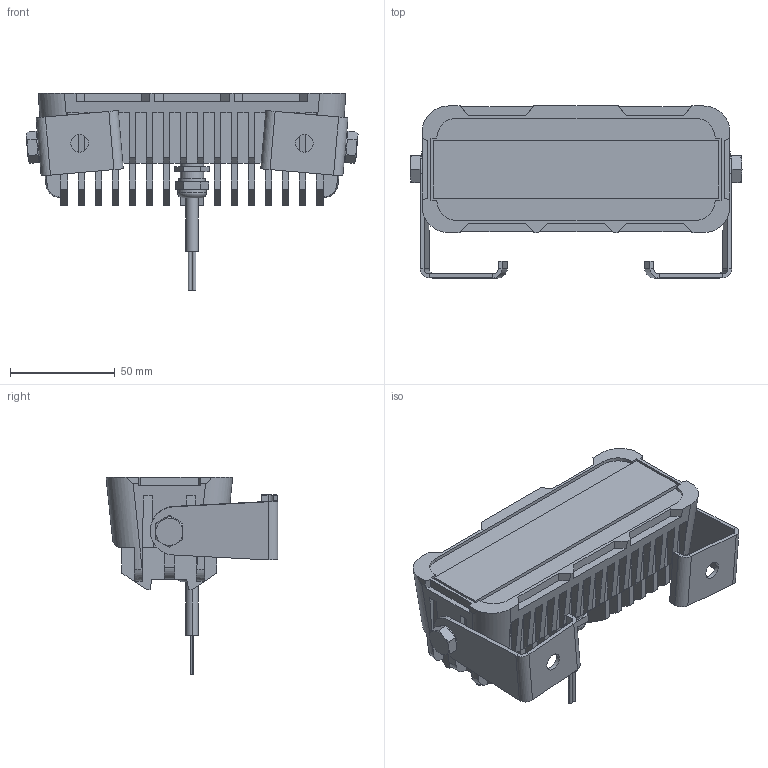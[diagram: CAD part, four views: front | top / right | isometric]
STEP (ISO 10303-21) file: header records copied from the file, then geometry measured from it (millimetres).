
FILE_DESCRIPTION (( 'STEP AP214' ), '1' );
FILE_NAME ('LEDWL-ZN-FKLT.STEP', '2019-12-02T21:53:22', ( '' ), ( '' ), 'SwSTEP 2.0', 'SolidWorks 2016', '' );
FILE_SCHEMA (( 'AUTOMOTIVE_DESIGN' ));
Length unit declared in the file: inch
Products named in the file (4): hex cap screw_am_B18.2.3.1M - Hex cap screw, M8 x 1.25 x 12 --12N; Mounting Brackets; Forklift Light; LEDWL-ZN-FKLT
Assembly tree (5 placements, depth 2):
  LEDWL-ZN-FKLT
    Forklift Light
    Mounting Brackets  x2
    hex cap screw_am_B18.2.3.1M - Hex cap screw, M8 x 1.25 x 12 --12N  x2
Bounding box: 158.81 x 82.25 x 94.6 mm (x, y, z)
Volume: 302415.3 mm3; surface area: 75406.6 mm2
Topology: 5 solids, 5 shells, 583 faces, 1500 edges, 952 vertices
Faces by surface type: plane 499, cylinder 58, cone 20, bspline 4, torus 2
Entity records: 16288 total; most frequent: CARTESIAN_POINT 3126, ORIENTED_EDGE 2768, DIRECTION 2498, EDGE_CURVE 1384, VECTOR 1234, LINE 1234, VERTEX_POINT 888, AXIS2_PLACEMENT_3D 632
